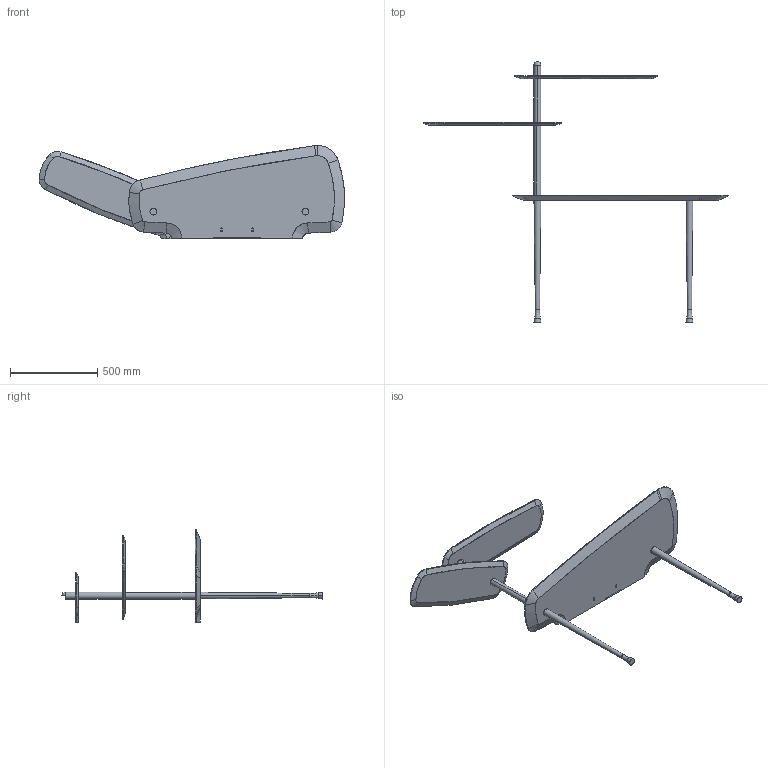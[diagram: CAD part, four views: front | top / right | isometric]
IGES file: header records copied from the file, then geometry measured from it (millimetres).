
Start section: SolidWorks IGES file using analytic representation for surfaces
Global section: file name: N:\OT\OFICINA TECNICA\PROYECTOS\EN DESARROLLO\COLECCION_UNICA\TODO_FINAL\3D\MODELOS PARA RENDERIZAR\ESCRITORIO CHAPADO.IGS; native system: SolidWorks 2016; preprocessor: SolidWorks 2016; author: Usuario; date: 201009.130444; units: millimetre
Bounding box: 1751.71 x 1496 x 534.25 mm (x, y, z)
Surface area: 2208346.1 mm2 (no closed solid volume)
Topology: 0 solids, 0 shells, 165 faces, 2618 edges, 2613 vertices
Faces by surface type: revolution 107, bspline 58
